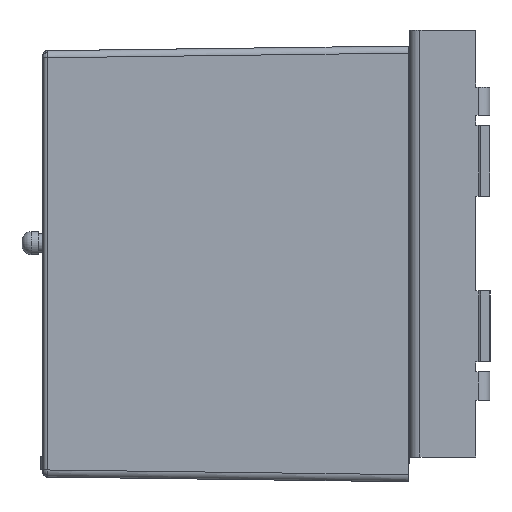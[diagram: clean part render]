
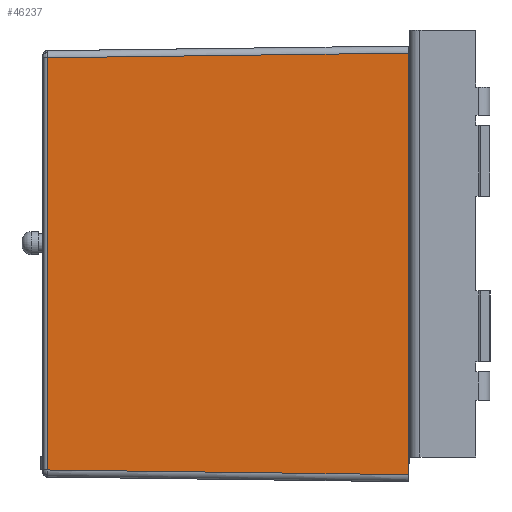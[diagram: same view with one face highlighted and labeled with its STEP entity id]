
A CAD part, left-side view. The second image highlights one B-rep face of the part: STEP entity #46237.
In plain terms, the highlighted planar face has unit normal (-1, 0.013, 0).
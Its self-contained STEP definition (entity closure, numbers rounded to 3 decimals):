
#1001 = VECTOR ( 'NONE', #55084, 1000. ) ;
#3080 = LINE ( 'NONE', #94310, #42846 ) ;
#3344 = VERTEX_POINT ( 'NONE', #91267 ) ;
#3716 = DIRECTION ( 'NONE',  ( -1., 0.013, 0. ) ) ;
#5099 = CARTESIAN_POINT ( 'NONE',  ( -59.033, 1.342, 44.533 ) ) ;
#5482 = ORIENTED_EDGE ( 'NONE', *, *, #52880, .T. ) ;
#6237 = CARTESIAN_POINT ( 'NONE',  ( -58.063, 76.213, 43.563 ) ) ;
#7072 = AXIS2_PLACEMENT_3D ( 'NONE', #28747, #3716, #27758 ) ;
#7313 = VECTOR ( 'NONE', #87842, 1000. ) ;
#19739 = FACE_OUTER_BOUND ( 'NONE', #83711, .T. ) ;
#27758 = DIRECTION ( 'NONE',  ( -0.013, -1., 0. ) ) ;
#28747 = CARTESIAN_POINT ( 'NONE',  ( -59.04, 0.765, 0. ) ) ;
#30546 = LINE ( 'NONE', #86171, #1001 ) ;
#30824 = EDGE_CURVE ( 'NONE', #51185, #75108, #79339, .T. ) ;
#32650 = DIRECTION ( 'NONE',  ( 0., 0., 1. ) ) ;
#33203 = CARTESIAN_POINT ( 'NONE',  ( -58.063, 76.213, -43.563 ) ) ;
#38231 = ORIENTED_EDGE ( 'NONE', *, *, #91109, .T. ) ;
#42846 = VECTOR ( 'NONE', #87283, 1000. ) ;
#46237 = ADVANCED_FACE ( 'NONE', ( #19739 ), #72396, .T. ) ;
#51185 = VERTEX_POINT ( 'NONE', #6237 ) ;
#51998 = EDGE_CURVE ( 'NONE', #51185, #59291, #30546, .T. ) ;
#52880 = EDGE_CURVE ( 'NONE', #3344, #75108, #94289, .T. ) ;
#55084 = DIRECTION ( 'NONE',  ( 0., 0., -1. ) ) ;
#55451 = VECTOR ( 'NONE', #32650, 1000. ) ;
#57248 = CARTESIAN_POINT ( 'NONE',  ( -59.05, 0., 44.55 ) ) ;
#59291 = VERTEX_POINT ( 'NONE', #33203 ) ;
#72396 = PLANE ( 'NONE',  #7072 ) ;
#72445 = ORIENTED_EDGE ( 'NONE', *, *, #51998, .T. ) ;
#75108 = VERTEX_POINT ( 'NONE', #57248 ) ;
#79339 = LINE ( 'NONE', #5099, #7313 ) ;
#83711 = EDGE_LOOP ( 'NONE', ( #5482, #87562, #72445, #38231 ) ) ;
#85773 = CARTESIAN_POINT ( 'NONE',  ( -59.05, 0., 0. ) ) ;
#86171 = CARTESIAN_POINT ( 'NONE',  ( -58.063, 76.213, 0. ) ) ;
#87283 = DIRECTION ( 'NONE',  ( -0.013, -1., -0.013 ) ) ;
#87562 = ORIENTED_EDGE ( 'NONE', *, *, #30824, .F. ) ;
#87842 = DIRECTION ( 'NONE',  ( -0.013, -1., 0.013 ) ) ;
#91109 = EDGE_CURVE ( 'NONE', #59291, #3344, #3080, .T. ) ;
#91267 = CARTESIAN_POINT ( 'NONE',  ( -59.05, 0., -44.55 ) ) ;
#94289 = LINE ( 'NONE', #85773, #55451 ) ;
#94310 = CARTESIAN_POINT ( 'NONE',  ( -58.063, 76.213, -43.563 ) ) ;
